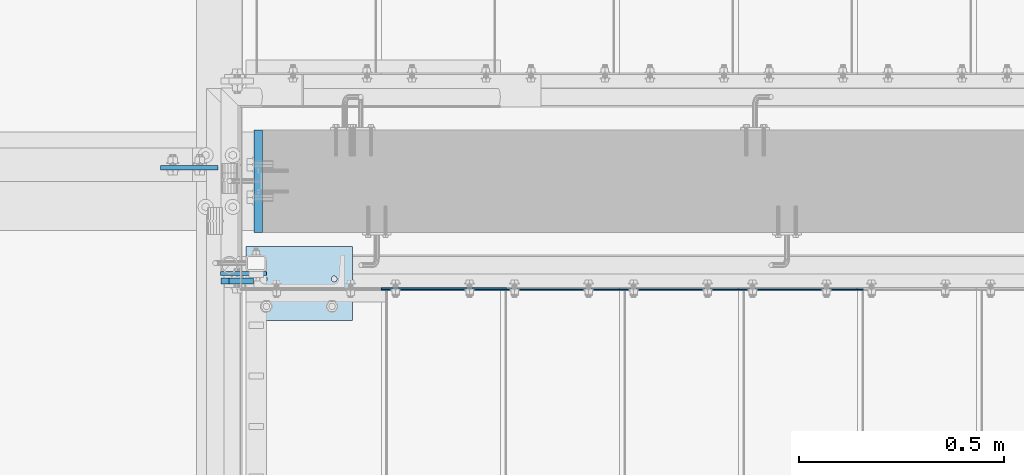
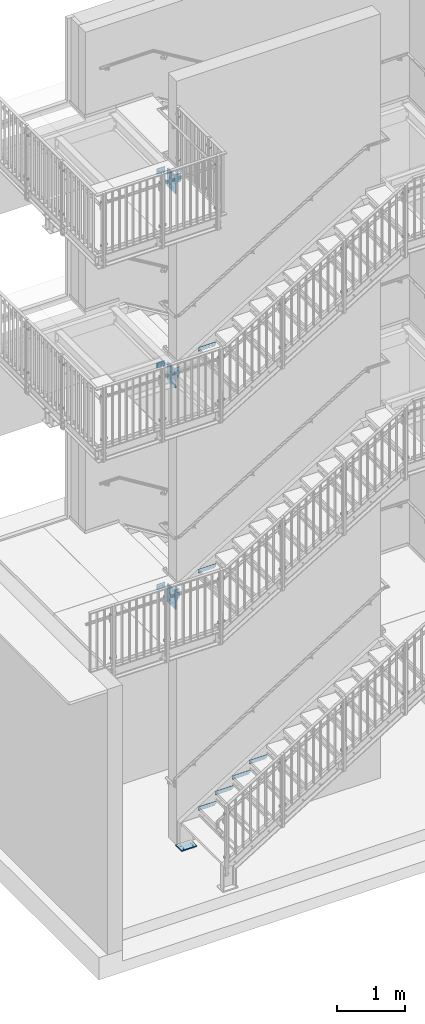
# One storey, part 54 of 410: 16 plates, 52 openings.
"""IFC2X3 building model written with IfcOpenShell, lengths in millimetres."""

from ifc_helpers import new_model, entity, si_unit, converted_unit, point, frame, frame_2d, origin, origin_with_axes, origin_2d_with_axis, place, context, project, spatial, polyline, circle_curve, line_curve, trimmed, segment, composite_curve, circle, outline, extrude, material, layer, layer_set, element, save


model = new_model("IFC2X3")

# Units and contexts
model_context = context("Model", 3, precision=1e-09, world=origin_with_axes())
ifc_project = project(units=[si_unit("LENGTHUNIT", "METRE", prefix="MILLI"), si_unit("AREAUNIT", "SQUARE_METRE"), si_unit("VOLUMEUNIT", "CUBIC_METRE"), converted_unit("PLANEANGLEUNIT", "DEGREE", entity("IfcPlaneAngleMeasure", 0.01745329), si_unit("PLANEANGLEUNIT", "RADIAN"), dimensions=[0, 0, 0, 0, 0, 0, 0])], contexts=[model_context])

# Site, building, storey
site_placement = place(None, origin_with_axes())
site = spatial("IfcSite", under=ifc_project, at=site_placement, Name="mKR Teilneubau & Sanierung BA1 - Ostfildern", CompositionType="ELEMENT")
building_placement = place(site_placement, origin_with_axes())
building = spatial("IfcBuilding", under=site, at=building_placement, Name="Struktur 1", CompositionType="ELEMENT")
storey_placement = place(building_placement, origin_with_axes())
storey = spatial("IfcBuildingStorey", under=building, at=storey_placement, Name="Default Storey", CompositionType="ELEMENT", Elevation=0.0)

# Plate, openings
ifc_material = material(Name="S235JR")
ifc_layer_1 = layer(ifc_material, 3.0)
ifc_layer_set_1 = layer_set([ifc_layer_1], Name="S235JR")
plate_1_placement = place(None, frame((-1415.0, 16719.999999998, 4175.0), z_axis=(0.0, -1.0, 0.0), x_axis=(0.0, 0.0, -1.0)))
plate_1 = element("IfcPlate", 1, at=plate_1_placement, inside=storey, material=ifc_layer_set_1, Name="Grate_Step#2", ObjectType="Grate_Step#2", context=model_context, shape_type="SweptSolid", body=[
    extrude(outline(polyline([(0.0, 0.0), (70.0, 0.0), (70.0, 275.0), (40.0, 305.0), (0.0, 305.0), (0.0, 0.0)])), origin_with_axes(), (0.0, 0.0, 1.0), 3.0),
])
opening_1_placement = place(plate_1_placement, frame((55.0, 215.0, 3.5), z_axis=(0.0, 0.0, -1.0), x_axis=(0.0, 1.0, 0.0)))
element("IfcOpeningElement", 2, at=opening_1_placement, cuts=plate_1, ObjectType="Opening", context=model_context, shape_type="SweptSolid", body=[
    extrude(outline(composite_curve([segment(trimmed(line_curve((-9.5, -7.001), (1.0, 0.0), 19.0), [point((-9.5, -7.001))], [point((9.5, -7.001))], True, "CARTESIAN"), True, "CONTINUOUS"), segment(trimmed(circle_curve(frame_2d((9.5, 0.0), x_axis=(1.0, 0.0)), 7.001), [point((9.5, -7.001))], [point((9.5, 7.001))], True, "CARTESIAN"), True, "CONTINUOUS"), segment(trimmed(line_curve((9.5, 7.001), (-1.0, 0.0), 19.0), [point((9.5, 7.001))], [point((-9.5, 7.001))], True, "CARTESIAN"), True, "CONTINUOUS"), segment(trimmed(circle_curve(frame_2d((-9.5, 0.0), x_axis=(1.0, 0.0)), 7.001), [point((-9.5, 7.001))], [point((-9.5, -7.001))], True, "CARTESIAN"), True, "CONTINUOUS")], self_intersect=False)), origin(), (0.0, 0.0, 1.0), 4.0),
])
opening_2_placement = place(plate_1_placement, frame((55.0, 35.0, 3.5), z_axis=(0.0, 0.0, -1.0), x_axis=(0.0, 1.0, 0.0)))
element("IfcOpeningElement", 3, at=opening_2_placement, cuts=plate_1, ObjectType="Opening", context=model_context, shape_type="SweptSolid", body=[
    extrude(circle(Radius=7.001, at=origin_2d_with_axis()), origin(), (0.0, 0.0, 1.0), 4.0),
])

plate_2_placement = place(None, frame((-1415.0, 16719.999999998, 173.9130435), z_axis=(0.0, -1.0, 0.0), x_axis=(0.0, 0.0, -1.0)))
plate_2 = element("IfcPlate", 4, at=plate_2_placement, inside=storey, material=ifc_layer_set_1, Name="Grate_Step#2", ObjectType="Grate_Step#2", context=model_context, shape_type="SweptSolid", body=[
    extrude(outline(polyline([(0.0, 0.0), (70.0, 0.0), (70.0, 275.0), (40.0, 305.0), (0.0, 305.0), (0.0, 0.0)])), origin_with_axes(), (0.0, 0.0, 1.0), 3.0),
])
opening_3_placement = place(plate_2_placement, frame((55.0, 35.0, 3.5), z_axis=(0.0, 0.0, -1.0), x_axis=(0.0, 1.0, 0.0)))
element("IfcOpeningElement", 5, at=opening_3_placement, cuts=plate_2, ObjectType="Opening", context=model_context, shape_type="SweptSolid", body=[
    extrude(circle(Radius=7.001, at=origin_2d_with_axis()), origin(), (0.0, 0.0, 1.0), 4.0),
])
opening_4_placement = place(plate_2_placement, frame((55.0, 215.0, 3.5), z_axis=(0.0, 0.0, -1.0), x_axis=(0.0, 1.0, 0.0)))
element("IfcOpeningElement", 6, at=opening_4_placement, cuts=plate_2, ObjectType="Opening", context=model_context, shape_type="SweptSolid", body=[
    extrude(outline(composite_curve([segment(trimmed(line_curve((-9.5, -7.001), (1.0, 0.0), 19.0), [point((-9.5, -7.001))], [point((9.5, -7.001))], True, "CARTESIAN"), True, "CONTINUOUS"), segment(trimmed(circle_curve(frame_2d((9.5, 0.0), x_axis=(1.0, 0.0)), 7.001), [point((9.5, -7.001))], [point((9.5, 7.001))], True, "CARTESIAN"), True, "CONTINUOUS"), segment(trimmed(line_curve((9.5, 7.001), (-1.0, 0.0), 19.0), [point((9.5, 7.001))], [point((-9.5, 7.001))], True, "CARTESIAN"), True, "CONTINUOUS"), segment(trimmed(circle_curve(frame_2d((-9.5, 0.0), x_axis=(1.0, 0.0)), 7.001), [point((-9.5, 7.001))], [point((-9.5, -7.001))], True, "CARTESIAN"), True, "CONTINUOUS")], self_intersect=False)), origin(), (0.0, 0.0, 1.0), 4.0),
])

plate_3_placement = place(None, frame((-1415.0, 16716.999999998, -4112.4), z_axis=(0.0, -1.0, 0.0), x_axis=(0.0, 0.0, -1.0)))
plate_3 = element("IfcPlate", 7, at=plate_3_placement, inside=storey, material=ifc_layer_set_1, Name="Grate_Step#2", ObjectType="Grate_Step#2", context=model_context, shape_type="SweptSolid", body=[
    extrude(outline(polyline([(0.0, 0.0), (70.0, 0.0), (70.0, 275.0), (40.0, 305.0), (0.0, 305.0), (0.0, 0.0)])), origin_with_axes(), (0.0, 0.0, 1.0), 3.0),
])
opening_5_placement = place(plate_3_placement, frame((55.0, 215.0, 3.5), z_axis=(0.0, 0.0, -1.0), x_axis=(0.0, 1.0, 0.0)))
element("IfcOpeningElement", 8, at=opening_5_placement, cuts=plate_3, ObjectType="Opening", context=model_context, shape_type="SweptSolid", body=[
    extrude(outline(composite_curve([segment(trimmed(line_curve((-9.5, -7.001), (1.0, 0.0), 19.0), [point((-9.5, -7.001))], [point((9.5, -7.001))], True, "CARTESIAN"), True, "CONTINUOUS"), segment(trimmed(circle_curve(frame_2d((9.5, 0.0), x_axis=(1.0, 0.0)), 7.001), [point((9.5, -7.001))], [point((9.5, 7.001))], True, "CARTESIAN"), True, "CONTINUOUS"), segment(trimmed(line_curve((9.5, 7.001), (-1.0, 0.0), 19.0), [point((9.5, 7.001))], [point((-9.5, 7.001))], True, "CARTESIAN"), True, "CONTINUOUS"), segment(trimmed(circle_curve(frame_2d((-9.5, 0.0), x_axis=(1.0, 0.0)), 7.001), [point((-9.5, 7.001))], [point((-9.5, -7.001))], True, "CARTESIAN"), True, "CONTINUOUS")], self_intersect=False)), origin(), (0.0, 0.0, 1.0), 4.0),
])
opening_6_placement = place(plate_3_placement, frame((55.0, 35.0, 3.5), z_axis=(0.0, 0.0, -1.0), x_axis=(0.0, 1.0, 0.0)))
element("IfcOpeningElement", 9, at=opening_6_placement, cuts=plate_3, ObjectType="Opening", context=model_context, shape_type="SweptSolid", body=[
    extrude(circle(Radius=7.001, at=origin_2d_with_axis()), origin(), (0.0, 0.0, 1.0), 4.0),
])

plate_4_placement = place(None, frame((-1125.0, 16716.999999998, -3933.6), z_axis=(0.0, -1.0, 0.0), x_axis=(0.0, 0.0, -1.0)))
plate_4 = element("IfcPlate", 10, at=plate_4_placement, inside=storey, material=ifc_layer_set_1, Name="Grate_Step#2", ObjectType="Grate_Step#2", context=model_context, shape_type="SweptSolid", body=[
    extrude(outline(polyline([(0.0, 0.0), (70.0, 0.0), (70.0, 275.0), (40.0, 305.0), (0.0, 305.0), (0.0, 0.0)])), origin_with_axes(), (0.0, 0.0, 1.0), 3.0),
])
opening_7_placement = place(plate_4_placement, frame((55.0, 215.0, 3.5), z_axis=(0.0, 0.0, -1.0), x_axis=(0.0, 1.0, 0.0)))
element("IfcOpeningElement", 11, at=opening_7_placement, cuts=plate_4, ObjectType="Opening", context=model_context, shape_type="SweptSolid", body=[
    extrude(outline(composite_curve([segment(trimmed(line_curve((-9.5, -7.001), (1.0, 0.0), 19.0), [point((-9.5, -7.001))], [point((9.5, -7.001))], True, "CARTESIAN"), True, "CONTINUOUS"), segment(trimmed(circle_curve(frame_2d((9.5, 0.0), x_axis=(1.0, 0.0)), 7.001), [point((9.5, -7.001))], [point((9.5, 7.001))], True, "CARTESIAN"), True, "CONTINUOUS"), segment(trimmed(line_curve((9.5, 7.001), (-1.0, 0.0), 19.0), [point((9.5, 7.001))], [point((-9.5, 7.001))], True, "CARTESIAN"), True, "CONTINUOUS"), segment(trimmed(circle_curve(frame_2d((-9.5, 0.0), x_axis=(1.0, 0.0)), 7.001), [point((-9.5, 7.001))], [point((-9.5, -7.001))], True, "CARTESIAN"), True, "CONTINUOUS")], self_intersect=False)), origin(), (0.0, 0.0, 1.0), 4.0),
])
opening_8_placement = place(plate_4_placement, frame((55.0, 35.0, 3.5), z_axis=(0.0, 0.0, -1.0), x_axis=(0.0, 1.0, 0.0)))
element("IfcOpeningElement", 12, at=opening_8_placement, cuts=plate_4, ObjectType="Opening", context=model_context, shape_type="SweptSolid", body=[
    extrude(circle(Radius=7.001, at=origin_2d_with_axis()), origin(), (0.0, 0.0, 1.0), 4.0),
])

plate_5_placement = place(None, frame((-835.0, 16716.999999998, -3754.8), z_axis=(0.0, -1.0, 0.0), x_axis=(0.0, 0.0, -1.0)))
plate_5 = element("IfcPlate", 13, at=plate_5_placement, inside=storey, material=ifc_layer_set_1, Name="Grate_Step#2", ObjectType="Grate_Step#2", context=model_context, shape_type="SweptSolid", body=[
    extrude(outline(polyline([(0.0, 0.0), (70.0, 0.0), (70.0, 275.0), (40.0, 305.0), (0.0, 305.0), (0.0, 0.0)])), origin_with_axes(), (0.0, 0.0, 1.0), 3.0),
])
opening_9_placement = place(plate_5_placement, frame((55.0, 35.0, 3.5), z_axis=(0.0, 0.0, -1.0), x_axis=(0.0, 1.0, 0.0)))
element("IfcOpeningElement", 14, at=opening_9_placement, cuts=plate_5, ObjectType="Opening", context=model_context, shape_type="SweptSolid", body=[
    extrude(circle(Radius=7.001, at=origin_2d_with_axis()), origin(), (0.0, 0.0, 1.0), 4.0),
])
opening_10_placement = place(plate_5_placement, frame((55.0, 215.0, 3.5), z_axis=(0.0, 0.0, -1.0), x_axis=(0.0, 1.0, 0.0)))
element("IfcOpeningElement", 15, at=opening_10_placement, cuts=plate_5, ObjectType="Opening", context=model_context, shape_type="SweptSolid", body=[
    extrude(outline(composite_curve([segment(trimmed(line_curve((-9.5, -7.001), (1.0, 0.0), 19.0), [point((-9.5, -7.001))], [point((9.5, -7.001))], True, "CARTESIAN"), True, "CONTINUOUS"), segment(trimmed(circle_curve(frame_2d((9.5, 0.0), x_axis=(1.0, 0.0)), 7.001), [point((9.5, -7.001))], [point((9.5, 7.001))], True, "CARTESIAN"), True, "CONTINUOUS"), segment(trimmed(line_curve((9.5, 7.001), (-1.0, 0.0), 19.0), [point((9.5, 7.001))], [point((-9.5, 7.001))], True, "CARTESIAN"), True, "CONTINUOUS"), segment(trimmed(circle_curve(frame_2d((-9.5, 0.0), x_axis=(1.0, 0.0)), 7.001), [point((-9.5, 7.001))], [point((-9.5, -7.001))], True, "CARTESIAN"), True, "CONTINUOUS")], self_intersect=False)), origin(), (0.0, 0.0, 1.0), 4.0),
])

plate_6_placement = place(None, frame((-545.0, 16716.999999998, -3576.0), z_axis=(0.0, -1.0, 0.0), x_axis=(0.0, 0.0, -1.0)))
plate_6 = element("IfcPlate", 16, at=plate_6_placement, inside=storey, material=ifc_layer_set_1, Name="Grate_Step#2", ObjectType="Grate_Step#2", context=model_context, shape_type="SweptSolid", body=[
    extrude(outline(polyline([(0.0, 0.0), (70.0, 0.0), (70.0, 275.0), (40.0, 305.0), (0.0, 305.0), (0.0, 0.0)])), origin_with_axes(), (0.0, 0.0, 1.0), 3.0),
])
opening_11_placement = place(plate_6_placement, frame((55.0, 35.0, 3.5), z_axis=(0.0, 0.0, -1.0), x_axis=(0.0, 1.0, 0.0)))
element("IfcOpeningElement", 17, at=opening_11_placement, cuts=plate_6, ObjectType="Opening", context=model_context, shape_type="SweptSolid", body=[
    extrude(circle(Radius=7.001, at=origin_2d_with_axis()), origin(), (0.0, 0.0, 1.0), 4.0),
])
opening_12_placement = place(plate_6_placement, frame((55.0, 215.0, 3.5), z_axis=(0.0, 0.0, -1.0), x_axis=(0.0, 1.0, 0.0)))
element("IfcOpeningElement", 18, at=opening_12_placement, cuts=plate_6, ObjectType="Opening", context=model_context, shape_type="SweptSolid", body=[
    extrude(outline(composite_curve([segment(trimmed(line_curve((-9.5, -7.001), (1.0, 0.0), 19.0), [point((-9.5, -7.001))], [point((9.5, -7.001))], True, "CARTESIAN"), True, "CONTINUOUS"), segment(trimmed(circle_curve(frame_2d((9.5, 0.0), x_axis=(1.0, 0.0)), 7.001), [point((9.5, -7.001))], [point((9.5, 7.001))], True, "CARTESIAN"), True, "CONTINUOUS"), segment(trimmed(line_curve((9.5, 7.001), (-1.0, 0.0), 19.0), [point((9.5, 7.001))], [point((-9.5, 7.001))], True, "CARTESIAN"), True, "CONTINUOUS"), segment(trimmed(circle_curve(frame_2d((-9.5, 0.0), x_axis=(1.0, 0.0)), 7.001), [point((-9.5, 7.001))], [point((-9.5, -7.001))], True, "CARTESIAN"), True, "CONTINUOUS")], self_intersect=False)), origin(), (0.0, 0.0, 1.0), 4.0),
])

ifc_layer_2 = layer(ifc_material, 15.0)
ifc_layer_set_2 = layer_set([ifc_layer_2], Name="S235JR")
plate_7_placement = place(None, frame((-1806.0485317, 16728.999999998, 3929.300000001), z_axis=(0.0, 1.0, 0.0), x_axis=(1.0, 0.0, 0.0)))
plate_7 = element("IfcPlate", 19, at=plate_7_placement, inside=storey, material=ifc_layer_set_2, Name="LugPlate#1", ObjectType="LugPlate#1", context=model_context, shape_type="SweptSolid", body=[
    extrude(outline(polyline([(0.0, 0.0), (80.0, 0.0), (80.0, 198.6), (0.0, 198.6), (0.0, 0.0)])), origin_with_axes(), (0.0, 0.0, 1.0), 15.0),
])
opening_13_placement = place(plate_7_placement, frame((0.0, 0.0, -0.01), z_axis=(0.0, 0.0, 1.0), x_axis=(1.0, 0.0, 0.0)))
element("IfcOpeningElement", 20, at=opening_13_placement, cuts=plate_7, ObjectType="Opening", context=model_context, shape_type="SweptSolid", body=[
    extrude(outline(polyline([(0.0, 0.0), (20.0, 0.0), (0.0, 20.0), (0.0, 0.0)])), origin(), (0.0, 0.0, 1.0), 15.02),
])
opening_14_placement = place(plate_7_placement, frame((0.0, 0.0, -0.01), z_axis=(0.0, 0.0, 1.0), x_axis=(1.0, 0.0, 0.0)))
element("IfcOpeningElement", 21, at=opening_14_placement, cuts=plate_7, ObjectType="Opening", context=model_context, shape_type="SweptSolid", body=[
    extrude(outline(polyline([(0.0, 198.6), (0.0, 178.6), (20.0, 198.6), (0.0, 198.6)])), origin(), (0.0, 0.0, 1.0), 15.02),
])
opening_15_placement = place(plate_7_placement, frame((0.0, 0.0, 15.1), z_axis=(0.0, 0.0, -1.0), x_axis=(1.0, 0.0, 0.0)))
element("IfcOpeningElement", 22, at=opening_15_placement, cuts=plate_7, ObjectType="Opening", context=model_context, shape_type="SweptSolid", body=[
    extrude(outline(polyline([(100.040499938, -215.84577283), (109.881207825, -139.491575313), (51.049, -174.841532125), (51.049, -209.300875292), (100.040499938, -215.84577283)])), origin(), (0.0, 0.0, 1.0), 15.2),
])
opening_16_placement = place(plate_7_placement, frame((30.999, 149.300000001, 15.5), z_axis=(0.0, 0.0, 1.0), x_axis=(1.0, 0.0, 0.0)))
element("IfcOpeningElement", 23, at=opening_16_placement, cuts=plate_7, ObjectType="Opening", context=model_context, shape_type="SweptSolid", body=[
    extrude(circle(Radius=9.001, at=frame_2d((9.001, 0.0), x_axis=(1.0, 0.0))), origin(), (0.0, 0.0, -1.0), 16.0),
])
opening_17_placement = place(plate_7_placement, frame((30.999, 49.300000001, 15.5), z_axis=(0.0, 0.0, 1.0), x_axis=(1.0, 0.0, 0.0)))
element("IfcOpeningElement", 24, at=opening_17_placement, cuts=plate_7, ObjectType="Opening", context=model_context, shape_type="SweptSolid", body=[
    extrude(circle(Radius=9.001, at=frame_2d((9.001, 0.0), x_axis=(1.0, 0.0))), origin(), (0.0, 0.0, -1.0), 16.0),
])

plate_8_placement = place(None, frame((-1806.0485317, 16728.999999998, -70.699999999), z_axis=(0.0, 1.0, 0.0), x_axis=(1.0, 0.0, 0.0)))
plate_8 = element("IfcPlate", 25, at=plate_8_placement, inside=storey, material=ifc_layer_set_2, Name="LugPlate#1", ObjectType="LugPlate#1", context=model_context, shape_type="SweptSolid", body=[
    extrude(outline(polyline([(0.0, 0.0), (80.0, 0.0), (80.0, 198.6), (0.0, 198.6), (0.0, 0.0)])), origin_with_axes(), (0.0, 0.0, 1.0), 15.0),
])
opening_18_placement = place(plate_8_placement, frame((0.0, 0.0, -0.01), z_axis=(0.0, 0.0, 1.0), x_axis=(1.0, 0.0, 0.0)))
element("IfcOpeningElement", 26, at=opening_18_placement, cuts=plate_8, ObjectType="Opening", context=model_context, shape_type="SweptSolid", body=[
    extrude(outline(polyline([(0.0, 0.0), (20.0, 0.0), (0.0, 20.0), (0.0, 0.0)])), origin(), (0.0, 0.0, 1.0), 15.02),
])
opening_19_placement = place(plate_8_placement, frame((0.0, 0.0, -0.01), z_axis=(0.0, 0.0, 1.0), x_axis=(1.0, 0.0, 0.0)))
element("IfcOpeningElement", 27, at=opening_19_placement, cuts=plate_8, ObjectType="Opening", context=model_context, shape_type="SweptSolid", body=[
    extrude(outline(polyline([(0.0, 198.6), (0.0, 178.6), (20.0, 198.6), (0.0, 198.6)])), origin(), (0.0, 0.0, 1.0), 15.02),
])
opening_20_placement = place(plate_8_placement, frame((0.0, 0.0, 15.1), z_axis=(0.0, 0.0, -1.0), x_axis=(1.0, 0.0, 0.0)))
element("IfcOpeningElement", 28, at=opening_20_placement, cuts=plate_8, ObjectType="Opening", context=model_context, shape_type="SweptSolid", body=[
    extrude(outline(polyline([(100.040499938, -215.84577283), (109.881207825, -139.491575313), (51.049, -174.841532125), (51.049, -209.300875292), (100.040499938, -215.84577283)])), origin(), (0.0, 0.0, 1.0), 15.2),
])
opening_21_placement = place(plate_8_placement, frame((30.999, 149.300000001, 15.5), z_axis=(0.0, 0.0, 1.0), x_axis=(1.0, 0.0, 0.0)))
element("IfcOpeningElement", 29, at=opening_21_placement, cuts=plate_8, ObjectType="Opening", context=model_context, shape_type="SweptSolid", body=[
    extrude(circle(Radius=9.001, at=frame_2d((9.001, 0.0), x_axis=(1.0, 0.0))), origin(), (0.0, 0.0, -1.0), 16.0),
])
opening_22_placement = place(plate_8_placement, frame((30.999, 49.300000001, 15.5), z_axis=(0.0, 0.0, 1.0), x_axis=(1.0, 0.0, 0.0)))
element("IfcOpeningElement", 30, at=opening_22_placement, cuts=plate_8, ObjectType="Opening", context=model_context, shape_type="SweptSolid", body=[
    extrude(circle(Radius=9.001, at=frame_2d((9.001, 0.0), x_axis=(1.0, 0.0))), origin(), (0.0, 0.0, -1.0), 16.0),
])

ifc_layer_3 = layer(ifc_material, 10.0)
ifc_layer_set_3 = layer_set([ifc_layer_3], Name="S235JR")
plate_9_placement = place(None, frame((-1882.9485317, 17017.5, 3860.0), z_axis=(0.0, 1.0, 0.0), x_axis=(-1.0, 0.0, 0.0)))
plate_9 = element("IfcPlate", 31, at=plate_9_placement, inside=storey, material=ifc_layer_set_3, Name="-", ObjectType="-", context=model_context, shape_type="SweptSolid", body=[
    extrude(outline(polyline([(-70.0, -50.0), (70.0, -50.0), (70.0, 50.0), (-70.0, 50.0), (-70.0, -50.0)])), origin_with_axes(), (0.0, 0.0, -1.0), 10.0),
])
opening_23_placement = place(plate_9_placement, frame((30.999, 0.0, 0.5), z_axis=(0.0, 0.0, 1.0), x_axis=(1.0, 0.0, 0.0)))
element("IfcOpeningElement", 32, at=opening_23_placement, cuts=plate_9, ObjectType="Opening", context=model_context, shape_type="SweptSolid", body=[
    extrude(circle(Radius=9.001, at=frame_2d((9.001, 0.0), x_axis=(1.0, 0.0))), origin(), (0.0, 0.0, -1.0), 11.0),
])
opening_24_placement = place(plate_9_placement, frame((-34.001, 0.0, 0.5), z_axis=(0.0, 0.0, 1.0), x_axis=(1.0, 0.0, 0.0)))
element("IfcOpeningElement", 33, at=opening_24_placement, cuts=plate_9, ObjectType="Opening", context=model_context, shape_type="SweptSolid", body=[
    extrude(circle(Radius=9.001, at=frame_2d((9.001, 0.0), x_axis=(1.0, 0.0))), origin(), (0.0, 0.0, -1.0), 11.0),
])

plate_10_placement = place(None, frame((-1882.9485317, 17017.5, 7360.0), z_axis=(0.0, 1.0, 0.0), x_axis=(-1.0, 0.0, 0.0)))
plate_10 = element("IfcPlate", 34, at=plate_10_placement, inside=storey, material=ifc_layer_set_3, Name="-", ObjectType="-", context=model_context, shape_type="SweptSolid", body=[
    extrude(outline(polyline([(-70.0, -50.0), (70.0, -50.0), (70.0, 50.0), (-70.0, 50.0), (-70.0, -50.0)])), origin_with_axes(), (0.0, 0.0, -1.0), 10.0),
])
opening_25_placement = place(plate_10_placement, frame((30.999, 0.0, 0.5), z_axis=(0.0, 0.0, 1.0), x_axis=(1.0, 0.0, 0.0)))
element("IfcOpeningElement", 35, at=opening_25_placement, cuts=plate_10, ObjectType="Opening", context=model_context, shape_type="SweptSolid", body=[
    extrude(circle(Radius=9.001, at=frame_2d((9.001, 0.0), x_axis=(1.0, 0.0))), origin(), (0.0, 0.0, -1.0), 11.0),
])
opening_26_placement = place(plate_10_placement, frame((-34.001, 0.0, 0.5), z_axis=(0.0, 0.0, 1.0), x_axis=(1.0, 0.0, 0.0)))
element("IfcOpeningElement", 36, at=opening_26_placement, cuts=plate_10, ObjectType="Opening", context=model_context, shape_type="SweptSolid", body=[
    extrude(circle(Radius=9.001, at=frame_2d((9.001, 0.0), x_axis=(1.0, 0.0))), origin(), (0.0, 0.0, -1.0), 11.0),
])

plate_11_placement = place(None, frame((-1882.9485317, 17017.5, -140.0), z_axis=(0.0, 1.0, 0.0), x_axis=(-1.0, 0.0, 0.0)))
plate_11 = element("IfcPlate", 37, at=plate_11_placement, inside=storey, material=ifc_layer_set_3, Name="-", ObjectType="-", context=model_context, shape_type="SweptSolid", body=[
    extrude(outline(polyline([(-70.0, -50.0), (70.0, -50.0), (70.0, 50.0), (-70.0, 50.0), (-70.0, -50.0)])), origin_with_axes(), (0.0, 0.0, -1.0), 10.0),
])
opening_27_placement = place(plate_11_placement, frame((30.999, 0.0, 0.5), z_axis=(0.0, 0.0, 1.0), x_axis=(1.0, 0.0, 0.0)))
element("IfcOpeningElement", 38, at=opening_27_placement, cuts=plate_11, ObjectType="Opening", context=model_context, shape_type="SweptSolid", body=[
    extrude(circle(Radius=9.001, at=frame_2d((9.001, 0.0), x_axis=(1.0, 0.0))), origin(), (0.0, 0.0, -1.0), 11.0),
])
opening_28_placement = place(plate_11_placement, frame((-34.001, 0.0, 0.5), z_axis=(0.0, 0.0, 1.0), x_axis=(1.0, 0.0, 0.0)))
element("IfcOpeningElement", 39, at=opening_28_placement, cuts=plate_11, ObjectType="Opening", context=model_context, shape_type="SweptSolid", body=[
    extrude(circle(Radius=9.001, at=frame_2d((9.001, 0.0), x_axis=(1.0, 0.0))), origin(), (0.0, 0.0, -1.0), 11.0),
])

plate_12_placement = place(None, frame((-1751.0485317, 16760.0, 7330.0), z_axis=(0.0, -1.0, 0.0), x_axis=(1.0, 0.0, 0.0)))
plate_12 = element("IfcPlate", 40, at=plate_12_placement, inside=storey, material=ifc_layer_set_3, Name="-", ObjectType="-", context=model_context, shape_type="SweptSolid", body=[
    extrude(outline(polyline([(-56.0, -75.0), (56.0, -75.0), (56.0, 75.0), (-56.0, 75.0), (-56.0, -75.0)])), origin_with_axes(), (0.0, 0.0, 1.0), 10.0),
])
opening_29_placement = place(plate_12_placement, frame((31.0, 0.0, -0.5), z_axis=(0.0, 0.0, 1.0), x_axis=(1.0, 0.0, 0.0)))
element("IfcOpeningElement", 41, at=opening_29_placement, cuts=plate_12, ObjectType="Opening", context=model_context, shape_type="SweptSolid", body=[
    extrude(circle(Radius=7.001, at=frame_2d((0.0, 50.0), x_axis=(1.0, 0.0))), origin(), (0.0, 0.0, 1.0), 11.0),
])
opening_30_placement = place(plate_12_placement, frame((31.0, 0.0, -0.5), z_axis=(0.0, 0.0, 1.0), x_axis=(1.0, 0.0, 0.0)))
element("IfcOpeningElement", 42, at=opening_30_placement, cuts=plate_12, ObjectType="Opening", context=model_context, shape_type="SweptSolid", body=[
    extrude(circle(Radius=7.001, at=frame_2d((0.0, -50.0), x_axis=(1.0, 0.0))), origin(), (0.0, 0.0, 1.0), 11.0),
])

ifc_layer_4 = layer(ifc_material, 20.0)
ifc_layer_set_4 = layer_set([ifc_layer_4], Name="S235JR")
plate_13_placement = place(None, frame((-1705.0, 16980.0, 3630.0), z_axis=(-1.0, 0.0, 0.0), x_axis=(0.0, -1.0, 0.0)))
plate_13 = element("IfcPlate", 43, at=plate_13_placement, inside=storey, material=ifc_layer_set_4, Name="-", ObjectType="-", context=model_context, shape_type="SweptSolid", body=[
    extrude(outline(polyline([(-125.0, -160.0), (125.0, -160.0), (125.0, 160.0), (-125.0, 160.0), (-125.0, -160.0)])), origin_with_axes(), (0.0, 0.0, 1.0), 20.0),
])
opening_31_placement = place(plate_13_placement, frame((40.0, 130.0, -0.5), z_axis=(0.0, 0.0, 1.0), x_axis=(1.0, 0.0, 0.0)))
element("IfcOpeningElement", 44, at=opening_31_placement, cuts=plate_13, ObjectType="Opening", context=model_context, shape_type="SweptSolid", body=[
    extrude(circle(Radius=10.501, at=origin_2d_with_axis()), origin(), (0.0, 0.0, 1.0), 21.0),
])
opening_32_placement = place(plate_13_placement, frame((40.0, 35.0, -0.5), z_axis=(0.0, 0.0, 1.0), x_axis=(1.0, 0.0, 0.0)))
element("IfcOpeningElement", 45, at=opening_32_placement, cuts=plate_13, ObjectType="Opening", context=model_context, shape_type="SweptSolid", body=[
    extrude(circle(Radius=10.501, at=origin_2d_with_axis()), origin(), (0.0, 0.0, 1.0), 21.0),
])
opening_33_placement = place(plate_13_placement, frame((-40.0, 130.0, -0.5), z_axis=(0.0, 0.0, 1.0), x_axis=(1.0, 0.0, 0.0)))
element("IfcOpeningElement", 46, at=opening_33_placement, cuts=plate_13, ObjectType="Opening", context=model_context, shape_type="SweptSolid", body=[
    extrude(circle(Radius=10.501, at=origin_2d_with_axis()), origin(), (0.0, 0.0, 1.0), 21.0),
])
opening_34_placement = place(plate_13_placement, frame((-40.0, -85.0, -0.5), z_axis=(0.0, 0.0, 1.0), x_axis=(1.0, 0.0, 0.0)))
element("IfcOpeningElement", 47, at=opening_34_placement, cuts=plate_13, ObjectType="Opening", context=model_context, shape_type="SweptSolid", body=[
    extrude(circle(Radius=10.501, at=origin_2d_with_axis()), origin(), (0.0, 0.0, 1.0), 21.0),
])
opening_35_placement = place(plate_13_placement, frame((-40.0, 35.0, -0.5), z_axis=(0.0, 0.0, 1.0), x_axis=(1.0, 0.0, 0.0)))
element("IfcOpeningElement", 48, at=opening_35_placement, cuts=plate_13, ObjectType="Opening", context=model_context, shape_type="SweptSolid", body=[
    extrude(circle(Radius=10.501, at=origin_2d_with_axis()), origin(), (0.0, 0.0, 1.0), 21.0),
])
opening_36_placement = place(plate_13_placement, frame((40.0, -85.0, -0.5), z_axis=(0.0, 0.0, 1.0), x_axis=(1.0, 0.0, 0.0)))
element("IfcOpeningElement", 49, at=opening_36_placement, cuts=plate_13, ObjectType="Opening", context=model_context, shape_type="SweptSolid", body=[
    extrude(circle(Radius=10.501, at=origin_2d_with_axis()), origin(), (0.0, 0.0, 1.0), 21.0),
])

plate_14_placement = place(None, frame((-1705.0, 16980.0, -370.0), z_axis=(-1.0, 0.0, 0.0), x_axis=(0.0, -1.0, 0.0)))
plate_14 = element("IfcPlate", 50, at=plate_14_placement, inside=storey, material=ifc_layer_set_4, Name="-", ObjectType="-", context=model_context, shape_type="SweptSolid", body=[
    extrude(outline(polyline([(-125.0, -160.0), (125.0, -160.0), (125.0, 160.0), (-125.0, 160.0), (-125.0, -160.0)])), origin_with_axes(), (0.0, 0.0, 1.0), 20.0),
])
opening_37_placement = place(plate_14_placement, frame((40.0, 130.0, -0.5), z_axis=(0.0, 0.0, 1.0), x_axis=(1.0, 0.0, 0.0)))
element("IfcOpeningElement", 51, at=opening_37_placement, cuts=plate_14, ObjectType="Opening", context=model_context, shape_type="SweptSolid", body=[
    extrude(circle(Radius=10.501, at=origin_2d_with_axis()), origin(), (0.0, 0.0, 1.0), 21.0),
])
opening_38_placement = place(plate_14_placement, frame((40.0, 35.0, -0.5), z_axis=(0.0, 0.0, 1.0), x_axis=(1.0, 0.0, 0.0)))
element("IfcOpeningElement", 52, at=opening_38_placement, cuts=plate_14, ObjectType="Opening", context=model_context, shape_type="SweptSolid", body=[
    extrude(circle(Radius=10.501, at=origin_2d_with_axis()), origin(), (0.0, 0.0, 1.0), 21.0),
])
opening_39_placement = place(plate_14_placement, frame((-40.0, 130.0, -0.5), z_axis=(0.0, 0.0, 1.0), x_axis=(1.0, 0.0, 0.0)))
element("IfcOpeningElement", 53, at=opening_39_placement, cuts=plate_14, ObjectType="Opening", context=model_context, shape_type="SweptSolid", body=[
    extrude(circle(Radius=10.501, at=origin_2d_with_axis()), origin(), (0.0, 0.0, 1.0), 21.0),
])
opening_40_placement = place(plate_14_placement, frame((-40.0, -85.0, -0.5), z_axis=(0.0, 0.0, 1.0), x_axis=(1.0, 0.0, 0.0)))
element("IfcOpeningElement", 54, at=opening_40_placement, cuts=plate_14, ObjectType="Opening", context=model_context, shape_type="SweptSolid", body=[
    extrude(circle(Radius=10.501, at=origin_2d_with_axis()), origin(), (0.0, 0.0, 1.0), 21.0),
])
opening_41_placement = place(plate_14_placement, frame((-40.0, 35.0, -0.5), z_axis=(0.0, 0.0, 1.0), x_axis=(1.0, 0.0, 0.0)))
element("IfcOpeningElement", 55, at=opening_41_placement, cuts=plate_14, ObjectType="Opening", context=model_context, shape_type="SweptSolid", body=[
    extrude(circle(Radius=10.501, at=origin_2d_with_axis()), origin(), (0.0, 0.0, 1.0), 21.0),
])
opening_42_placement = place(plate_14_placement, frame((40.0, -85.0, -0.5), z_axis=(0.0, 0.0, 1.0), x_axis=(1.0, 0.0, 0.0)))
element("IfcOpeningElement", 56, at=opening_42_placement, cuts=plate_14, ObjectType="Opening", context=model_context, shape_type="SweptSolid", body=[
    extrude(circle(Radius=10.501, at=origin_2d_with_axis()), origin(), (0.0, 0.0, 1.0), 21.0),
])

plate_15_placement = place(None, frame((-1485.0, 16819.999999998, -4740.0), z_axis=(0.0, 0.0, -1.0), x_axis=(0.0, -1.0, 0.0)))
plate_15 = element("IfcPlate", 57, at=plate_15_placement, inside=storey, material=ifc_layer_set_4, Name="Baseplate", ObjectType="Baseplate", context=model_context, shape_type="SweptSolid", body=[
    extrude(outline(polyline([(0.0, 0.0), (180.0, 0.0), (180.0, 260.0), (0.0, 260.0), (0.0, 0.0)])), origin_with_axes(), (0.0, 0.0, 1.0), 20.0),
])
opening_43_placement = place(plate_15_placement, frame((78.5, 215.0, 20.5), z_axis=(0.0, 0.0, -1.0), x_axis=(0.0, -1.0, 0.0)))
element("IfcOpeningElement", 58, at=opening_43_placement, cuts=plate_15, ObjectType="Opening", context=model_context, shape_type="SweptSolid", body=[
    extrude(circle(Radius=7.001, at=origin_2d_with_axis()), origin(), (0.0, 0.0, 1.0), 21.0),
])
opening_44_placement = place(plate_15_placement, frame((78.5, 45.0, 20.5), z_axis=(0.0, 0.0, -1.0), x_axis=(0.0, -1.0, 0.0)))
element("IfcOpeningElement", 59, at=opening_44_placement, cuts=plate_15, ObjectType="Opening", context=model_context, shape_type="SweptSolid", body=[
    extrude(circle(Radius=7.001, at=origin_2d_with_axis()), origin(), (0.0, 0.0, 1.0), 21.0),
])
opening_45_placement = place(plate_15_placement, frame((145.5, 130.0, 20.5), z_axis=(0.0, 0.0, -1.0), x_axis=(1.0, 0.0, 0.0)))
element("IfcOpeningElement", 60, at=opening_45_placement, cuts=plate_15, ObjectType="Opening", context=model_context, shape_type="SweptSolid", body=[
    extrude(circle(Radius=9.001, at=frame_2d((0.0, 80.0), x_axis=(1.0, 0.0))), origin(), (0.0, 0.0, 1.0), 21.0),
])
opening_46_placement = place(plate_15_placement, frame((145.5, 130.0, 20.5), z_axis=(0.0, 0.0, -1.0), x_axis=(1.0, 0.0, 0.0)))
element("IfcOpeningElement", 61, at=opening_46_placement, cuts=plate_15, ObjectType="Opening", context=model_context, shape_type="SweptSolid", body=[
    extrude(circle(Radius=9.001, at=frame_2d((0.0, -80.0), x_axis=(1.0, 0.0))), origin(), (0.0, 0.0, 1.0), 21.0),
])

plate_16_placement = place(None, frame((-1705.0, 16980.0, 7130.0), z_axis=(-1.0, 0.0, 0.0), x_axis=(0.0, -1.0, 0.0)))
plate_16 = element("IfcPlate", 62, at=plate_16_placement, inside=storey, material=ifc_layer_set_4, Name="-", ObjectType="-", context=model_context, shape_type="SweptSolid", body=[
    extrude(outline(polyline([(-125.0, -160.0), (125.0, -160.0), (125.0, 160.0), (-125.0, 160.0), (-125.0, -160.0)])), origin_with_axes(), (0.0, 0.0, 1.0), 20.0),
])
opening_47_placement = place(plate_16_placement, frame((40.0, 130.0, -0.5), z_axis=(0.0, 0.0, 1.0), x_axis=(1.0, 0.0, 0.0)))
element("IfcOpeningElement", 63, at=opening_47_placement, cuts=plate_16, ObjectType="Opening", context=model_context, shape_type="SweptSolid", body=[
    extrude(circle(Radius=10.501, at=origin_2d_with_axis()), origin(), (0.0, 0.0, 1.0), 21.0),
])
opening_48_placement = place(plate_16_placement, frame((40.0, 35.0, -0.5), z_axis=(0.0, 0.0, 1.0), x_axis=(1.0, 0.0, 0.0)))
element("IfcOpeningElement", 64, at=opening_48_placement, cuts=plate_16, ObjectType="Opening", context=model_context, shape_type="SweptSolid", body=[
    extrude(circle(Radius=10.501, at=origin_2d_with_axis()), origin(), (0.0, 0.0, 1.0), 21.0),
])
opening_49_placement = place(plate_16_placement, frame((-40.0, 130.0, -0.5), z_axis=(0.0, 0.0, 1.0), x_axis=(1.0, 0.0, 0.0)))
element("IfcOpeningElement", 65, at=opening_49_placement, cuts=plate_16, ObjectType="Opening", context=model_context, shape_type="SweptSolid", body=[
    extrude(circle(Radius=10.501, at=origin_2d_with_axis()), origin(), (0.0, 0.0, 1.0), 21.0),
])
opening_50_placement = place(plate_16_placement, frame((-40.0, -85.0, -0.5), z_axis=(0.0, 0.0, 1.0), x_axis=(1.0, 0.0, 0.0)))
element("IfcOpeningElement", 66, at=opening_50_placement, cuts=plate_16, ObjectType="Opening", context=model_context, shape_type="SweptSolid", body=[
    extrude(circle(Radius=10.501, at=origin_2d_with_axis()), origin(), (0.0, 0.0, 1.0), 21.0),
])
opening_51_placement = place(plate_16_placement, frame((-40.0, 35.0, -0.5), z_axis=(0.0, 0.0, 1.0), x_axis=(1.0, 0.0, 0.0)))
element("IfcOpeningElement", 67, at=opening_51_placement, cuts=plate_16, ObjectType="Opening", context=model_context, shape_type="SweptSolid", body=[
    extrude(circle(Radius=10.501, at=origin_2d_with_axis()), origin(), (0.0, 0.0, 1.0), 21.0),
])
opening_52_placement = place(plate_16_placement, frame((40.0, -85.0, -0.5), z_axis=(0.0, 0.0, 1.0), x_axis=(1.0, 0.0, 0.0)))
element("IfcOpeningElement", 68, at=opening_52_placement, cuts=plate_16, ObjectType="Opening", context=model_context, shape_type="SweptSolid", body=[
    extrude(circle(Radius=10.501, at=origin_2d_with_axis()), origin(), (0.0, 0.0, 1.0), 21.0),
])

save(model, "model.ifc")
